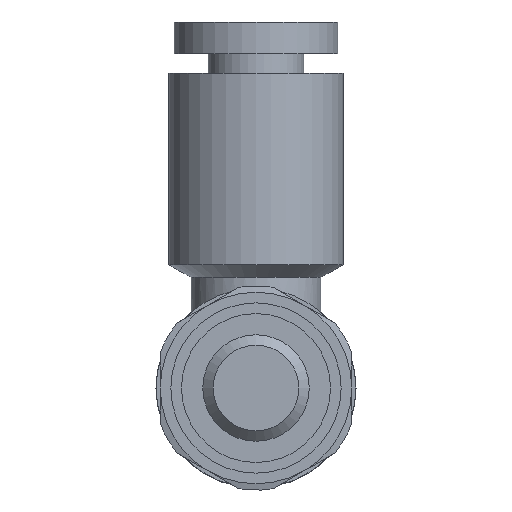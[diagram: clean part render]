
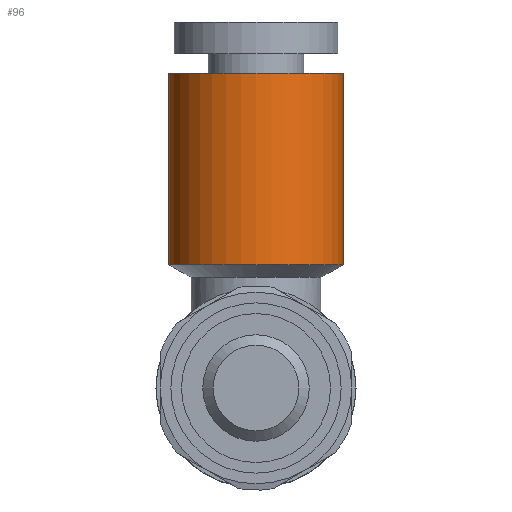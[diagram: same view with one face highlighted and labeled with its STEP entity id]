
A CAD part, front view. The second image highlights one B-rep face of the part: STEP entity #96.
In plain terms, the highlighted cylindrical face has radius 4.1 mm (diameter 8.2 mm), a full revolution.
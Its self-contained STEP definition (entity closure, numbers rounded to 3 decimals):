
#96 = ADVANCED_FACE( '', ( #236, #237 ), #238, .T. );
#236 = FACE_OUTER_BOUND( '', #439, .T. );
#237 = FACE_OUTER_BOUND( '', #440, .T. );
#238 = CYLINDRICAL_SURFACE( '', #441, 4.1 );
#439 = EDGE_LOOP( '', ( #667 ) );
#440 = EDGE_LOOP( '', ( #668 ) );
#441 = AXIS2_PLACEMENT_3D( '', #669, #670, #671 );
#667 = ORIENTED_EDGE( '', *, *, #1061, .F. );
#668 = ORIENTED_EDGE( '', *, *, #1062, .T. );
#669 = CARTESIAN_POINT( '', ( 0., 13.9, 0. ) );
#670 = DIRECTION( '', ( 0., 0., 1. ) );
#671 = DIRECTION( '', ( -1., 0., 0. ) );
#1061 = EDGE_CURVE( '', #1237, #1237, #1238, .T. );
#1062 = EDGE_CURVE( '', #1239, #1239, #1240, .T. );
#1237 = VERTEX_POINT( '', #1500 );
#1238 = CIRCLE( '', #1501, 4.1 );
#1239 = VERTEX_POINT( '', #1502 );
#1240 = CIRCLE( '', #1503, 4.1 );
#1500 = CARTESIAN_POINT( '', ( -4.1, 13.9, 5.8 ) );
#1501 = AXIS2_PLACEMENT_3D( '', #1828, #1829, #1830 );
#1502 = CARTESIAN_POINT( '', ( -4.1, 13.9, 14.8 ) );
#1503 = AXIS2_PLACEMENT_3D( '', #1831, #1832, #1833 );
#1828 = CARTESIAN_POINT( '', ( 0., 13.9, 5.8 ) );
#1829 = DIRECTION( '', ( 0., 0., -1. ) );
#1830 = DIRECTION( '', ( -1., 0., 0. ) );
#1831 = CARTESIAN_POINT( '', ( 0., 13.9, 14.8 ) );
#1832 = DIRECTION( '', ( 0., 0., -1. ) );
#1833 = DIRECTION( '', ( -1., 0., 0. ) );
